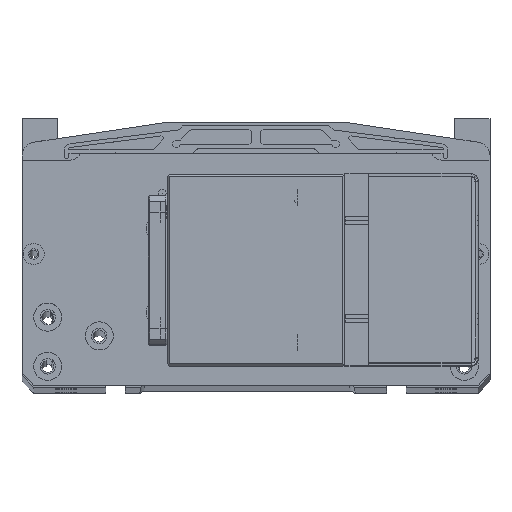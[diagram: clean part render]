
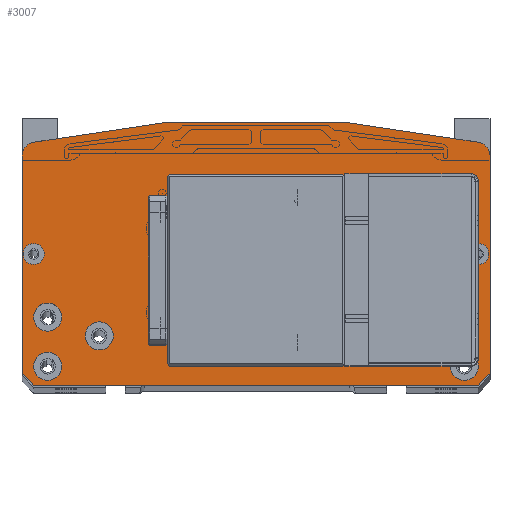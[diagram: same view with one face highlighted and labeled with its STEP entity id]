
A CAD part, top view. The second image highlights one B-rep face of the part: STEP entity #3007.
In plain terms, the highlighted planar face has unit normal (0, 0, 1).
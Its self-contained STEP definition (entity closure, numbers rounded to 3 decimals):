
#588=FACE_BOUND('',#5465,.T.);
#589=FACE_BOUND('',#5466,.T.);
#590=FACE_BOUND('',#5467,.T.);
#591=FACE_BOUND('',#5468,.T.);
#592=FACE_BOUND('',#5469,.T.);
#593=FACE_BOUND('',#5470,.T.);
#594=FACE_BOUND('',#5471,.T.);
#595=FACE_BOUND('',#5472,.T.);
#596=FACE_BOUND('',#5473,.T.);
#597=FACE_BOUND('',#5474,.T.);
#598=FACE_BOUND('',#5475,.T.);
#599=FACE_BOUND('',#5476,.T.);
#600=FACE_BOUND('',#5477,.T.);
#1263=PLANE('',#20050);
#1992=CIRCLE('',#19932,1.65);
#2007=CIRCLE('',#19961,1.65);
#2012=CIRCLE('',#19975,6.);
#2019=CIRCLE('',#19989,6.);
#2020=CIRCLE('',#19992,4.5);
#2024=CIRCLE('',#19999,4.5);
#2028=CIRCLE('',#20006,6.);
#2032=CIRCLE('',#20013,6.);
#2036=CIRCLE('',#20020,6.);
#2040=CIRCLE('',#20027,6.);
#2044=CIRCLE('',#20034,6.);
#2048=CIRCLE('',#20041,6.);
#3007=ADVANCED_FACE('',(#588,#589,#590,#591,#592,#593,#594,#595,#596,#597,
#598,#599,#600),#1263,.F.);
#5465=EDGE_LOOP('',(#12298,#12299,#12300,#12301));
#5466=EDGE_LOOP('',(#12302,#12303,#12304,#12305));
#5467=EDGE_LOOP('',(#12306));
#5468=EDGE_LOOP('',(#12307));
#5469=EDGE_LOOP('',(#12308,#12309,#12310,#12311,#12312,#12313,#12314,#12315,
#12316,#12317));
#5470=EDGE_LOOP('',(#12318));
#5471=EDGE_LOOP('',(#12319));
#5472=EDGE_LOOP('',(#12320));
#5473=EDGE_LOOP('',(#12321));
#5474=EDGE_LOOP('',(#12322));
#5475=EDGE_LOOP('',(#12323));
#5476=EDGE_LOOP('',(#12324));
#5477=EDGE_LOOP('',(#12325));
#6229=LINE('',#28545,#7667);
#6425=LINE('',#29647,#7863);
#6445=LINE('',#29692,#7883);
#7050=LINE('',#33705,#8488);
#7054=LINE('',#33713,#8492);
#7057=LINE('',#33719,#8495);
#7077=LINE('',#33755,#8515);
#7097=LINE('',#33927,#8535);
#7099=LINE('',#33930,#8537);
#7105=LINE('',#33943,#8543);
#7108=LINE('',#33949,#8546);
#7121=LINE('',#33985,#8559);
#7123=LINE('',#34070,#8561);
#7124=LINE('',#34073,#8562);
#7125=LINE('',#34075,#8563);
#7126=LINE('',#34077,#8564);
#7667=VECTOR('',#21432,1.);
#7863=VECTOR('',#21892,1.);
#7883=VECTOR('',#21942,1.);
#8488=VECTOR('',#23995,1.);
#8492=VECTOR('',#24001,1.);
#8495=VECTOR('',#24006,1.);
#8515=VECTOR('',#24038,1.);
#8535=VECTOR('',#24254,1.);
#8537=VECTOR('',#24258,1.);
#8543=VECTOR('',#24266,1.);
#8546=VECTOR('',#24271,1.);
#8559=VECTOR('',#24318,1.);
#8561=VECTOR('',#24438,1.);
#8562=VECTOR('',#24439,1.);
#8563=VECTOR('',#24440,1.);
#8564=VECTOR('',#24441,1.);
#12298=ORIENTED_EDGE('',*,*,#17873,.F.);
#12299=ORIENTED_EDGE('',*,*,#17874,.F.);
#12300=ORIENTED_EDGE('',*,*,#17875,.T.);
#12301=ORIENTED_EDGE('',*,*,#17876,.T.);
#12302=ORIENTED_EDGE('',*,*,#17716,.T.);
#12303=ORIENTED_EDGE('',*,*,#17719,.T.);
#12304=ORIENTED_EDGE('',*,*,#17739,.T.);
#12305=ORIENTED_EDGE('',*,*,#17712,.T.);
#12306=ORIENTED_EDGE('',*,*,#17774,.T.);
#12307=ORIENTED_EDGE('',*,*,#17802,.T.);
#12308=ORIENTED_EDGE('',*,*,#17807,.F.);
#12309=ORIENTED_EDGE('',*,*,#16649,.T.);
#12310=ORIENTED_EDGE('',*,*,#17839,.F.);
#12311=ORIENTED_EDGE('',*,*,#16673,.T.);
#12312=ORIENTED_EDGE('',*,*,#17838,.F.);
#12313=ORIENTED_EDGE('',*,*,#17809,.F.);
#12314=ORIENTED_EDGE('',*,*,#17815,.T.);
#12315=ORIENTED_EDGE('',*,*,#17818,.F.);
#12316=ORIENTED_EDGE('',*,*,#17819,.F.);
#12317=ORIENTED_EDGE('',*,*,#16363,.T.);
#12318=ORIENTED_EDGE('',*,*,#17869,.T.);
#12319=ORIENTED_EDGE('',*,*,#17865,.T.);
#12320=ORIENTED_EDGE('',*,*,#17861,.T.);
#12321=ORIENTED_EDGE('',*,*,#17857,.T.);
#12322=ORIENTED_EDGE('',*,*,#17853,.T.);
#12323=ORIENTED_EDGE('',*,*,#17849,.T.);
#12324=ORIENTED_EDGE('',*,*,#17845,.T.);
#12325=ORIENTED_EDGE('',*,*,#17841,.T.);
#14470=VERTEX_POINT('',#28544);
#14471=VERTEX_POINT('',#28546);
#14646=VERTEX_POINT('',#29646);
#14647=VERTEX_POINT('',#29648);
#14656=VERTEX_POINT('',#29691);
#14657=VERTEX_POINT('',#29693);
#15339=VERTEX_POINT('',#33695);
#15343=VERTEX_POINT('',#33704);
#15346=VERTEX_POINT('',#33712);
#15348=VERTEX_POINT('',#33718);
#15389=VERTEX_POINT('',#33852);
#15406=VERTEX_POINT('',#33911);
#15413=VERTEX_POINT('',#33931);
#15414=VERTEX_POINT('',#33932);
#15418=VERTEX_POINT('',#33942);
#15420=VERTEX_POINT('',#33948);
#15427=VERTEX_POINT('',#33989);
#15430=VERTEX_POINT('',#33999);
#15433=VERTEX_POINT('',#34009);
#15436=VERTEX_POINT('',#34019);
#15439=VERTEX_POINT('',#34029);
#15442=VERTEX_POINT('',#34039);
#15445=VERTEX_POINT('',#34049);
#15448=VERTEX_POINT('',#34059);
#15451=VERTEX_POINT('',#34071);
#15452=VERTEX_POINT('',#34072);
#15453=VERTEX_POINT('',#34074);
#15454=VERTEX_POINT('',#34076);
#16363=EDGE_CURVE('',#14471,#14470,#6229,.T.);
#16649=EDGE_CURVE('',#14647,#14646,#6425,.T.);
#16673=EDGE_CURVE('',#14657,#14656,#6445,.T.);
#17712=EDGE_CURVE('',#15339,#15343,#7050,.T.);
#17716=EDGE_CURVE('',#15343,#15346,#7054,.T.);
#17719=EDGE_CURVE('',#15346,#15348,#7057,.T.);
#17739=EDGE_CURVE('',#15348,#15339,#7077,.T.);
#17774=EDGE_CURVE('',#15389,#15389,#1992,.T.);
#17802=EDGE_CURVE('',#15406,#15406,#2007,.T.);
#17807=EDGE_CURVE('',#14647,#14470,#7097,.T.);
#17809=EDGE_CURVE('',#15413,#15414,#7099,.T.);
#17815=EDGE_CURVE('',#15413,#15418,#7105,.T.);
#17818=EDGE_CURVE('',#15420,#15418,#7108,.T.);
#17819=EDGE_CURVE('',#14471,#15420,#2012,.T.);
#17838=EDGE_CURVE('',#15414,#14656,#2019,.T.);
#17839=EDGE_CURVE('',#14657,#14646,#7121,.T.);
#17841=EDGE_CURVE('',#15427,#15427,#2020,.T.);
#17845=EDGE_CURVE('',#15430,#15430,#2024,.T.);
#17849=EDGE_CURVE('',#15433,#15433,#2028,.T.);
#17853=EDGE_CURVE('',#15436,#15436,#2032,.T.);
#17857=EDGE_CURVE('',#15439,#15439,#2036,.T.);
#17861=EDGE_CURVE('',#15442,#15442,#2040,.T.);
#17865=EDGE_CURVE('',#15445,#15445,#2044,.T.);
#17869=EDGE_CURVE('',#15448,#15448,#2048,.T.);
#17873=EDGE_CURVE('',#15451,#15452,#7123,.T.);
#17874=EDGE_CURVE('',#15453,#15451,#7124,.T.);
#17875=EDGE_CURVE('',#15453,#15454,#7125,.T.);
#17876=EDGE_CURVE('',#15454,#15452,#7126,.T.);
#19932=AXIS2_PLACEMENT_3D('',#33851,#24163,#24164);
#19961=AXIS2_PLACEMENT_3D('',#33910,#24234,#24235);
#19975=AXIS2_PLACEMENT_3D('',#33951,#24274,#24275);
#19989=AXIS2_PLACEMENT_3D('',#33983,#24314,#24315);
#19992=AXIS2_PLACEMENT_3D('',#33988,#24322,#24323);
#19999=AXIS2_PLACEMENT_3D('',#33998,#24336,#24337);
#20006=AXIS2_PLACEMENT_3D('',#34008,#24350,#24351);
#20013=AXIS2_PLACEMENT_3D('',#34018,#24364,#24365);
#20020=AXIS2_PLACEMENT_3D('',#34028,#24378,#24379);
#20027=AXIS2_PLACEMENT_3D('',#34038,#24392,#24393);
#20034=AXIS2_PLACEMENT_3D('',#34048,#24406,#24407);
#20041=AXIS2_PLACEMENT_3D('',#34058,#24420,#24421);
#20050=AXIS2_PLACEMENT_3D('',#34078,#24442,#24443);
#21432=DIRECTION('',(0.,-1.,0.));
#21892=DIRECTION('',(1.,0.,0.));
#21942=DIRECTION('',(0.,1.,0.));
#23995=DIRECTION('',(0.,1.,0.));
#24001=DIRECTION('',(1.,0.,0.));
#24006=DIRECTION('',(0.,-1.,0.));
#24038=DIRECTION('',(-1.,0.,0.));
#24163=DIRECTION('',(0.,0.,-1.));
#24164=DIRECTION('',(1.,0.,0.));
#24234=DIRECTION('',(0.,0.,-1.));
#24235=DIRECTION('',(1.,0.,0.));
#24254=DIRECTION('',(-0.707,0.707,0.));
#24258=DIRECTION('',(0.989,-0.148,0.));
#24266=DIRECTION('',(-1.,0.,0.));
#24271=DIRECTION('',(0.989,0.148,0.));
#24274=DIRECTION('',(0.,0.,-1.));
#24275=DIRECTION('',(-1.,0.,0.));
#24314=DIRECTION('',(0.,0.,-1.));
#24315=DIRECTION('',(0.148,0.989,0.));
#24318=DIRECTION('',(-0.707,-0.707,0.));
#24322=DIRECTION('',(0.,0.,-1.));
#24323=DIRECTION('',(1.,0.,0.));
#24336=DIRECTION('',(0.,0.,-1.));
#24337=DIRECTION('',(1.,0.,0.));
#24350=DIRECTION('',(0.,0.,-1.));
#24351=DIRECTION('',(1.,0.,0.));
#24364=DIRECTION('',(0.,0.,-1.));
#24365=DIRECTION('',(1.,0.,0.));
#24378=DIRECTION('',(0.,0.,-1.));
#24379=DIRECTION('',(1.,0.,0.));
#24392=DIRECTION('',(0.,0.,-1.));
#24393=DIRECTION('',(1.,0.,0.));
#24406=DIRECTION('',(0.,0.,-1.));
#24407=DIRECTION('',(1.,0.,0.));
#24420=DIRECTION('',(0.,0.,-1.));
#24421=DIRECTION('',(1.,0.,0.));
#24438=DIRECTION('',(1.,0.,0.));
#24439=DIRECTION('',(0.,-1.,0.));
#24440=DIRECTION('',(1.,0.,0.));
#24441=DIRECTION('',(0.,-1.,0.));
#24442=DIRECTION('',(0.,0.,-1.));
#24443=DIRECTION('',(-1.,0.,0.));
#28544=CARTESIAN_POINT('',(-100.,7.,463.));
#28545=CARTESIAN_POINT('',(-100.,99.833,463.));
#28546=CARTESIAN_POINT('',(-100.,99.833,463.));
#29646=CARTESIAN_POINT('',(95.,2.,463.));
#29647=CARTESIAN_POINT('',(67.5,2.,463.));
#29648=CARTESIAN_POINT('',(-95.,2.,463.));
#29691=CARTESIAN_POINT('',(100.,99.833,463.));
#29692=CARTESIAN_POINT('',(100.,7.,463.));
#29693=CARTESIAN_POINT('',(100.,7.,463.));
#33695=CARTESIAN_POINT('',(-37.,11.,463.));
#33704=CARTESIAN_POINT('',(-37.,91.,463.));
#33705=CARTESIAN_POINT('',(-37.,11.,463.));
#33712=CARTESIAN_POINT('',(37.,91.,463.));
#33713=CARTESIAN_POINT('',(-37.,91.,463.));
#33718=CARTESIAN_POINT('',(37.,11.,463.));
#33719=CARTESIAN_POINT('',(37.,91.,463.));
#33755=CARTESIAN_POINT('',(37.,11.,463.));
#33851=CARTESIAN_POINT('',(42.,69.,463.));
#33852=CARTESIAN_POINT('',(43.65,69.,463.));
#33910=CARTESIAN_POINT('',(42.,33.,463.));
#33911=CARTESIAN_POINT('',(43.65,33.,463.));
#33927=CARTESIAN_POINT('',(-95.,2.,463.));
#33930=CARTESIAN_POINT('',(40.,114.,463.));
#33931=CARTESIAN_POINT('',(40.,114.,463.));
#33932=CARTESIAN_POINT('',(94.89,105.766,463.));
#33942=CARTESIAN_POINT('',(-40.,114.,463.));
#33943=CARTESIAN_POINT('',(40.,114.,463.));
#33948=CARTESIAN_POINT('',(-94.89,105.766,463.));
#33949=CARTESIAN_POINT('',(-94.89,105.766,463.));
#33951=CARTESIAN_POINT('',(-94.,99.833,463.));
#33983=CARTESIAN_POINT('',(94.,99.833,463.));
#33985=CARTESIAN_POINT('',(100.,7.,463.));
#33988=CARTESIAN_POINT('',(-95.,58.,463.));
#33989=CARTESIAN_POINT('',(-90.5,58.,463.));
#33998=CARTESIAN_POINT('',(95.,58.,463.));
#33999=CARTESIAN_POINT('',(99.5,58.,463.));
#34008=CARTESIAN_POINT('',(-67.,23.,463.));
#34009=CARTESIAN_POINT('',(-61.,23.,463.));
#34018=CARTESIAN_POINT('',(67.,23.,463.));
#34019=CARTESIAN_POINT('',(73.,23.,463.));
#34028=CARTESIAN_POINT('',(-89.,31.,463.));
#34029=CARTESIAN_POINT('',(-83.,31.,463.));
#34038=CARTESIAN_POINT('',(89.,31.,463.));
#34039=CARTESIAN_POINT('',(95.,31.,463.));
#34048=CARTESIAN_POINT('',(-89.,10.,463.));
#34049=CARTESIAN_POINT('',(-83.,10.,463.));
#34058=CARTESIAN_POINT('',(89.,10.,463.));
#34059=CARTESIAN_POINT('',(95.,10.,463.));
#34070=CARTESIAN_POINT('',(-45.5,21.534,463.));
#34071=CARTESIAN_POINT('',(-45.5,21.534,463.));
#34072=CARTESIAN_POINT('',(-38.5,21.534,463.));
#34073=CARTESIAN_POINT('',(-45.5,80.466,463.));
#34074=CARTESIAN_POINT('',(-45.5,80.466,463.));
#34075=CARTESIAN_POINT('',(-45.5,80.466,463.));
#34076=CARTESIAN_POINT('',(-38.5,80.466,463.));
#34077=CARTESIAN_POINT('',(-38.5,80.466,463.));
#34078=CARTESIAN_POINT('',(0.,2.,463.));
